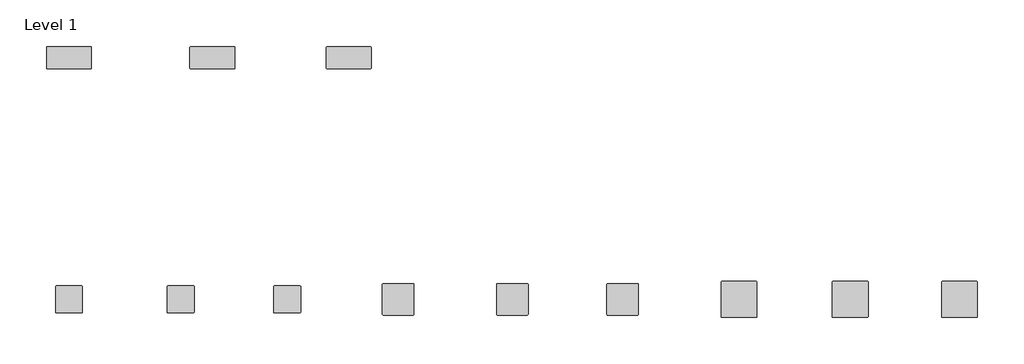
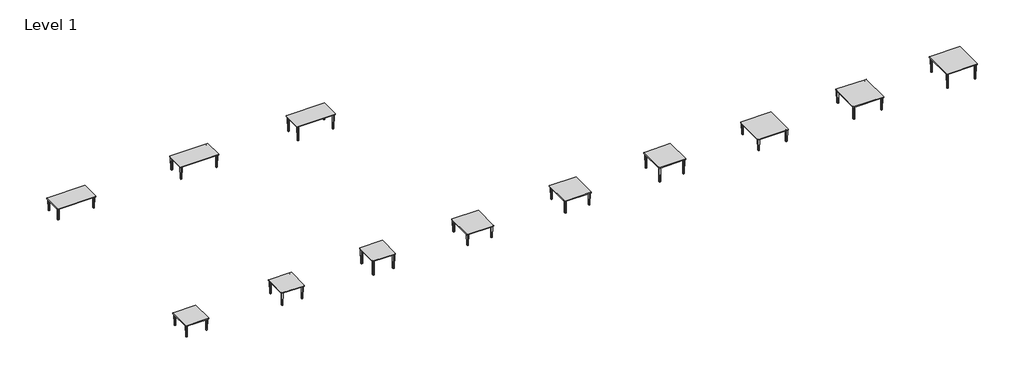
# One storey, incomplete: 12 furniture elements.
"""IFC4 building model written with IfcOpenShell, lengths in millimetres."""

from ifc_helpers import new_model, si_unit, origin, place, context, project, spatial, transform, mapped, element, save
from components import qct306020_a0ced367, qct306022_8d185105, qct306025_694dcfb7, qct363620_21aba500, qct363622_fa148c54, qct363625_7c22f82d, qct424220_80bd4fbd, qct424222_d210ae8e, qct424225_4609f93b, qct484820_ed0dcc14, qct484822_5f569f33, qct484825_b3ea9676

model = new_model("IFC4")

# Units and contexts
model_context = context("Model", 3, world=origin())
ifc_project = project(units=[si_unit("LENGTHUNIT", "METRE", prefix="MILLI")], contexts=[model_context])

# Site, building, storey
site = spatial("IfcSite", under=ifc_project)
building = spatial("IfcBuilding", under=site)
storey = spatial("IfcBuildingStorey", under=building, Name="Level 1", Elevation=0.0)

# Furniture
placement = place(None, origin())
qct306020_shape = qct306020_a0ced367(model_context)
element("IfcFurniture", 1, ObjectType="Leland-Quince-Table_Rectangle : QCT306020", at=placement, inside=storey, context=model_context, shape_type="MappedRepresentation", body=[
    mapped(qct306020_shape, transform((-10181.6645757, -25689.8922129, 0.0), x_axis=(1.0, 0.0, 0.0), y_axis=(0.0, 1.0, 0.0), z_axis=(0.0, 0.0, 1.0))),
])
qct306022_shape = qct306022_8d185105(model_context)
element("IfcFurniture", 2, ObjectType="Leland-Quince-Table_Rectangle : QCT306022", at=placement, inside=storey, context=model_context, shape_type="MappedRepresentation", body=[
    mapped(qct306022_shape, transform((-5299.9092948, -25689.8922129, 0.0), x_axis=(1.0, 0.0, 0.0), y_axis=(0.0, 1.0, 0.0), z_axis=(0.0, 0.0, 1.0))),
])
qct306025_shape = qct306025_694dcfb7(model_context)
element("IfcFurniture", 3, ObjectType="Leland-Quince-Table_Rectangle : QCT306025", at=placement, inside=storey, context=model_context, shape_type="MappedRepresentation", body=[
    mapped(qct306025_shape, transform((-659.4135039, -25689.8922129, 0.0), x_axis=(1.0, 0.0, 0.0), y_axis=(0.0, 1.0, 0.0), z_axis=(0.0, 0.0, 1.0))),
])
qct363620_shape = qct363620_21aba500(model_context)
element("IfcFurniture", 4, ObjectType="Leland-Quince-Table_Square : QCT363620", at=placement, inside=storey, context=model_context, shape_type="MappedRepresentation", body=[
    mapped(qct363620_shape, transform((-10181.6645757, -33911.639179, 0.0), x_axis=(1.0, 0.0, 0.0), y_axis=(0.0, 1.0, 0.0), z_axis=(0.0, 0.0, 1.0))),
])
qct363622_shape = qct363622_fa148c54(model_context)
element("IfcFurniture", 5, ObjectType="Leland-Quince-Table_Square : QCT363622", at=placement, inside=storey, context=model_context, shape_type="MappedRepresentation", body=[
    mapped(qct363622_shape, transform((-6378.2799134, -33911.639179, 0.0), x_axis=(1.0, 0.0, 0.0), y_axis=(0.0, 1.0, 0.0), z_axis=(0.0, 0.0, 1.0))),
])
qct363625_shape = qct363625_7c22f82d(model_context)
element("IfcFurniture", 6, ObjectType="Leland-Quince-Table_Square : QCT363625", at=placement, inside=storey, context=model_context, shape_type="MappedRepresentation", body=[
    mapped(qct363625_shape, transform((-2757.541442, -33911.639179, 0.0), x_axis=(1.0, 0.0, 0.0), y_axis=(0.0, 1.0, 0.0), z_axis=(0.0, 0.0, 1.0))),
])
qct424220_shape = qct424220_80bd4fbd(model_context)
element("IfcFurniture", 7, ObjectType="Leland-Quince-Table_Square : QCT424220", at=placement, inside=storey, context=model_context, shape_type="MappedRepresentation", body=[
    mapped(qct424220_shape, transform((1022.3503689, -33911.639179, 0.0), x_axis=(1.0, 0.0, 0.0), y_axis=(0.0, 1.0, 0.0), z_axis=(0.0, 0.0, 1.0))),
])
qct424222_shape = qct424222_d210ae8e(model_context)
element("IfcFurniture", 8, ObjectType="Leland-Quince-Table_Square : QCT424222", at=placement, inside=storey, context=model_context, shape_type="MappedRepresentation", body=[
    mapped(qct424222_shape, transform((4908.6759755, -33911.639179, 0.0), x_axis=(1.0, 0.0, 0.0), y_axis=(0.0, 1.0, 0.0), z_axis=(0.0, 0.0, 1.0))),
])
qct424225_shape = qct424225_4609f93b(model_context)
element("IfcFurniture", 9, ObjectType="Leland-Quince-Table_Square : QCT424225", at=placement, inside=storey, context=model_context, shape_type="MappedRepresentation", body=[
    mapped(qct424225_shape, transform((8660.4871691, -33911.639179, 0.0), x_axis=(1.0, 0.0, 0.0), y_axis=(0.0, 1.0, 0.0), z_axis=(0.0, 0.0, 1.0))),
])
qct484820_shape = qct484820_ed0dcc14(model_context)
element("IfcFurniture", 10, ObjectType="Leland-Quince-Table_Square : QCT484820", at=placement, inside=storey, context=model_context, shape_type="MappedRepresentation", body=[
    mapped(qct484820_shape, transform((12624.0941558, -33911.639179, 0.0), x_axis=(1.0, 0.0, 0.0), y_axis=(0.0, 1.0, 0.0), z_axis=(0.0, 0.0, 1.0))),
])
qct484822_shape = qct484822_5f569f33(model_context)
element("IfcFurniture", 11, ObjectType="Leland-Quince-Table_Square : QCT484822", at=placement, inside=storey, context=model_context, shape_type="MappedRepresentation", body=[
    mapped(qct484822_shape, transform((16406.1618913, -33911.639179, 0.0), x_axis=(1.0, 0.0, 0.0), y_axis=(0.0, 1.0, 0.0), z_axis=(0.0, 0.0, 1.0))),
])
qct484825_shape = qct484825_b3ea9676(model_context)
element("IfcFurniture", 12, ObjectType="Leland-Quince-Table_Square : QCT484825", at=placement, inside=storey, context=model_context, shape_type="MappedRepresentation", body=[
    mapped(qct484825_shape, transform((20127.716543, -33911.639179, 0.0), x_axis=(1.0, 0.0, 0.0), y_axis=(0.0, 1.0, 0.0), z_axis=(0.0, 0.0, 1.0))),
])

save(model, "model.ifc")
